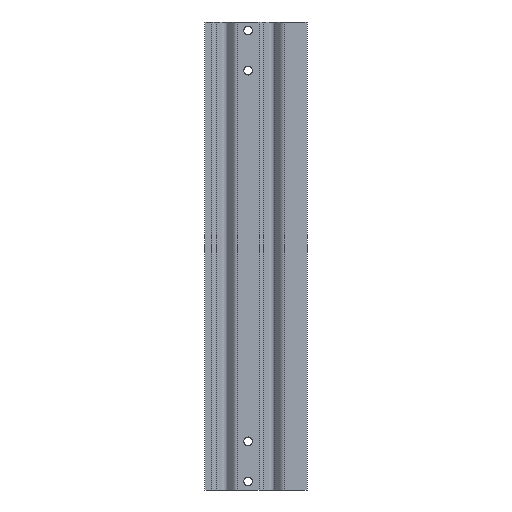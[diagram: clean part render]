
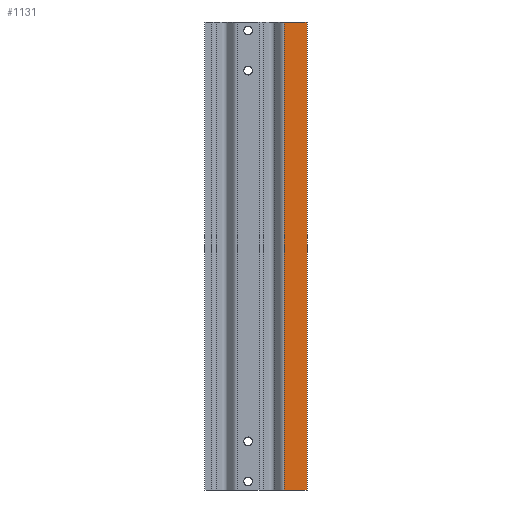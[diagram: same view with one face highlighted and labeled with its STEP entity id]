
A CAD part, left-side view. The second image highlights one B-rep face of the part: STEP entity #1131.
In plain terms, the highlighted planar face has unit normal (-1, 0, 0).
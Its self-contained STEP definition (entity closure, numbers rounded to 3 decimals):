
#185=CARTESIAN_POINT('',(0.0,0.0,-559.5));
#186=VERTEX_POINT('',#185);
#195=CARTESIAN_POINT('',(0.,28.822,-559.5));
#196=VERTEX_POINT('',#195);
#197=CARTESIAN_POINT('',(0.,28.822,-559.5));
#198=DIRECTION('',(0.0,-1.0,0.0));
#199=VECTOR('',#198,28.822);
#200=LINE('',#197,#199);
#201=EDGE_CURVE('',#196,#186,#200,.T.);
#429=CARTESIAN_POINT('',(0.,28.822,36.5));
#430=VERTEX_POINT('',#429);
#447=CARTESIAN_POINT('',(0.,28.822,36.5));
#448=DIRECTION('',(0.0,0.0,-1.0));
#449=VECTOR('',#448,596.0);
#450=LINE('',#447,#449);
#451=EDGE_CURVE('',#430,#196,#450,.T.);
#1096=CARTESIAN_POINT('',(0.0,0.0,36.5));
#1097=VERTEX_POINT('',#1096);
#1104=CARTESIAN_POINT('',(0.0,0.0,-559.5));
#1105=DIRECTION('',(0.0,0.0,1.0));
#1106=VECTOR('',#1105,596.0);
#1107=LINE('',#1104,#1106);
#1108=EDGE_CURVE('',#186,#1097,#1107,.T.);
#1115=CARTESIAN_POINT('',(0.0,0.0,0.0));
#1116=DIRECTION('',(-1.0,0.0,0.0));
#1117=DIRECTION('',(0.0,0.0,1.0));
#1118=AXIS2_PLACEMENT_3D('',#1115,#1116,#1117);
#1119=PLANE('',#1118);
#1120=CARTESIAN_POINT('',(0.0,0.0,36.5));
#1121=DIRECTION('',(0.0,1.0,0.0));
#1122=VECTOR('',#1121,28.822);
#1123=LINE('',#1120,#1122);
#1124=EDGE_CURVE('',#1097,#430,#1123,.T.);
#1125=ORIENTED_EDGE('',*,*,#1124,.T.);
#1126=ORIENTED_EDGE('',*,*,#451,.T.);
#1127=ORIENTED_EDGE('',*,*,#201,.T.);
#1128=ORIENTED_EDGE('',*,*,#1108,.T.);
#1129=EDGE_LOOP('',(#1125,#1126,#1127,#1128));
#1130=FACE_OUTER_BOUND('',#1129,.T.);
#1131=ADVANCED_FACE('',(#1130),#1119,.T.);
